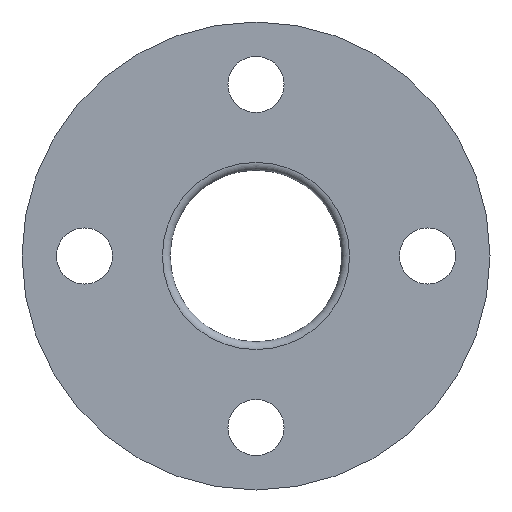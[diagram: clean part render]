
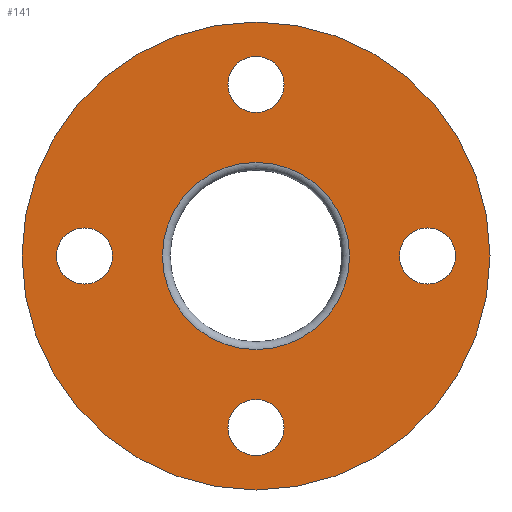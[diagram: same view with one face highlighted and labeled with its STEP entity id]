
A CAD part, front view. The second image highlights one B-rep face of the part: STEP entity #141.
In plain terms, the highlighted planar face has unit normal (0, -1, 0).
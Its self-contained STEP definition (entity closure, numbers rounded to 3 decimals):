
#13=PLANE($,#156);
#23=FACE_BOUND($,#52,.T.);
#24=FACE_BOUND($,#53,.T.);
#25=FACE_BOUND($,#54,.T.);
#26=FACE_BOUND($,#55,.T.);
#27=FACE_BOUND($,#56,.T.);
#41=FACE_OUTER_BOUND($,#51,.T.);
#51=EDGE_LOOP($,(#116));
#52=EDGE_LOOP($,(#117));
#53=EDGE_LOOP($,(#118));
#54=EDGE_LOOP($,(#119));
#55=EDGE_LOOP($,(#120));
#56=EDGE_LOOP($,(#121));
#74=CIRCLE($,#153,30.);
#76=CIRCLE($,#157,75.);
#77=CIRCLE($,#158,9.);
#78=CIRCLE($,#159,9.);
#79=CIRCLE($,#160,9.);
#80=CIRCLE($,#161,9.);
#87=VERTEX_POINT($,#223);
#89=VERTEX_POINT($,#229);
#90=VERTEX_POINT($,#231);
#91=VERTEX_POINT($,#233);
#92=VERTEX_POINT($,#235);
#93=VERTEX_POINT($,#237);
#100=EDGE_CURVE($,#87,#87,#74,.T.);
#102=EDGE_CURVE($,#89,#89,#76,.T.);
#103=EDGE_CURVE($,#90,#90,#77,.T.);
#104=EDGE_CURVE($,#91,#91,#78,.T.);
#105=EDGE_CURVE($,#92,#92,#79,.T.);
#106=EDGE_CURVE($,#93,#93,#80,.T.);
#116=ORIENTED_EDGE($,*,*,#102,.F.);
#117=ORIENTED_EDGE($,*,*,#103,.T.);
#118=ORIENTED_EDGE($,*,*,#104,.T.);
#119=ORIENTED_EDGE($,*,*,#105,.T.);
#120=ORIENTED_EDGE($,*,*,#106,.T.);
#121=ORIENTED_EDGE($,*,*,#100,.F.);
#141=ADVANCED_FACE($,(#41,#23,#24,#25,#26,#27),#13,.T.);
#153=AXIS2_PLACEMENT_3D($,#224,#179,#180);
#156=AXIS2_PLACEMENT_3D($,#228,#185,#186);
#157=AXIS2_PLACEMENT_3D($,#230,#187,#188);
#158=AXIS2_PLACEMENT_3D($,#232,#189,#190);
#159=AXIS2_PLACEMENT_3D($,#234,#191,#192);
#160=AXIS2_PLACEMENT_3D($,#236,#193,#194);
#161=AXIS2_PLACEMENT_3D($,#238,#195,#196);
#179=DIRECTION('center_axis',(0.,-1.,0.));
#180=DIRECTION('ref_axis',(1.,0.,0.));
#185=DIRECTION('center_axis',(0.,-1.,0.));
#186=DIRECTION('ref_axis',(0.,0.,-1.));
#187=DIRECTION('center_axis',(0.,1.,0.));
#188=DIRECTION('ref_axis',(-1.,0.,0.));
#189=DIRECTION('center_axis',(0.,1.,0.));
#190=DIRECTION('ref_axis',(1.,0.,0.));
#191=DIRECTION('center_axis',(0.,1.,0.));
#192=DIRECTION('ref_axis',(0.,0.,-1.));
#193=DIRECTION('center_axis',(0.,1.,0.));
#194=DIRECTION('ref_axis',(-1.,0.,0.));
#195=DIRECTION('center_axis',(0.,1.,0.));
#196=DIRECTION('ref_axis',(0.,0.,1.));
#223=CARTESIAN_POINT('',(-30.,0.,0.));
#224=CARTESIAN_POINT('Origin',(0.,0.,0.));
#228=CARTESIAN_POINT('Origin',(-37.5,0.,0.));
#229=CARTESIAN_POINT('',(-75.,0.,0.));
#230=CARTESIAN_POINT('Origin',(0.,0.,0.));
#231=CARTESIAN_POINT('',(46.,0.,0.));
#232=CARTESIAN_POINT('Origin',(55.,0.,0.));
#233=CARTESIAN_POINT('',(0.,0.,-46.));
#234=CARTESIAN_POINT('Origin',(0.,0.,-55.));
#235=CARTESIAN_POINT('',(-46.,0.,0.));
#236=CARTESIAN_POINT('Origin',(-55.,0.,0.));
#237=CARTESIAN_POINT('',(0.,0.,46.));
#238=CARTESIAN_POINT('Origin',(0.,0.,55.));
